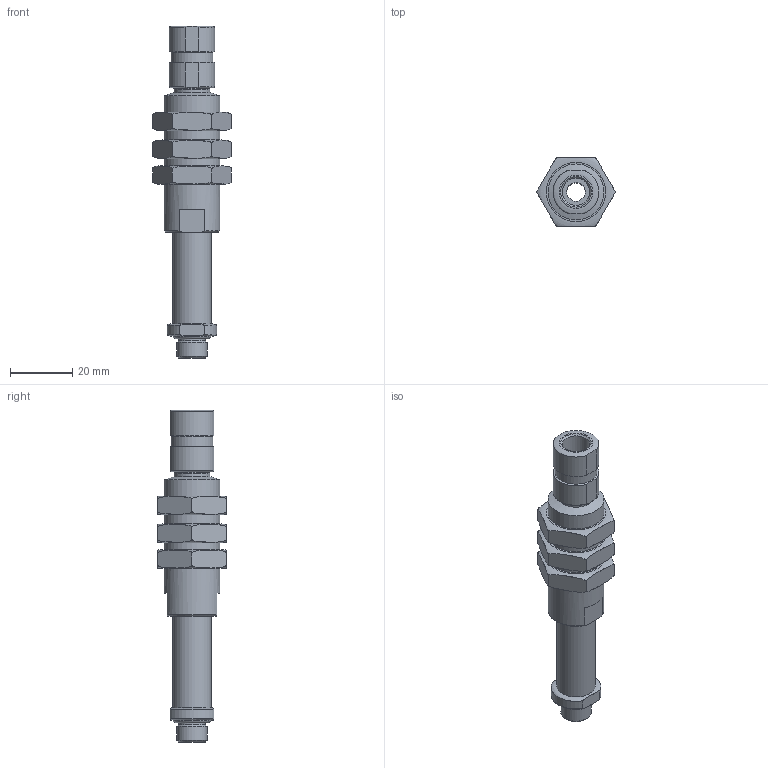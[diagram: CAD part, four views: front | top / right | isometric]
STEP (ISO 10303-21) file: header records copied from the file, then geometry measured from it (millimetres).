
FILE_DESCRIPTION( ( 'Unknown' ), '1' );
FILE_NAME( 'C:/Documents and Settings/Owner/官帕 拳搁/诀公楷遏_(Level Spring Stroke)/L1830TS.stp', 'Unknown', ( 'Unknown' ), ( 'Unknown' ), 'PSStep 10.0', 'Unknown', ' ' );
FILE_SCHEMA( ( 'AUTOMOTIVE_DESIGN { 1 0 10303 214 1 1 1 1 }' ) );
Length unit declared in the file: millimetre
Products named in the file (1): 1
Bounding box: 25.4 x 22 x 106.8 mm (x, y, z)
Surface area: 9114.4 mm2 (no closed solid volume)
Topology: 0 solids, 78 shells, 78 faces, 322 edges, 293 vertices
Faces by surface type: plane 41, cylinder 18, revolution 10, cone 8, torus 1
Full cylindrical faces by diameter (mm): 6 x1, 8.5 x1, 8.8 x1, 9.8 x1, 10 x1, 11.5 x1, 12.5 x1, 13.5 x1, 18 x4
Entity records: 6372 total; most frequent: CARTESIAN_POINT 3491, DIRECTION 436, ORIENTED_EDGE 286, EDGE_CURVE 286, VERTEX_POINT 286, AXIS2_PLACEMENT_3D 175, FACE_BOUND 120, EDGE_LOOP 120
